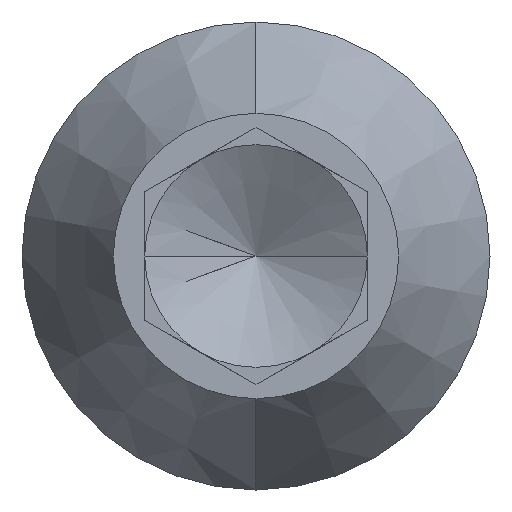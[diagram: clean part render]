
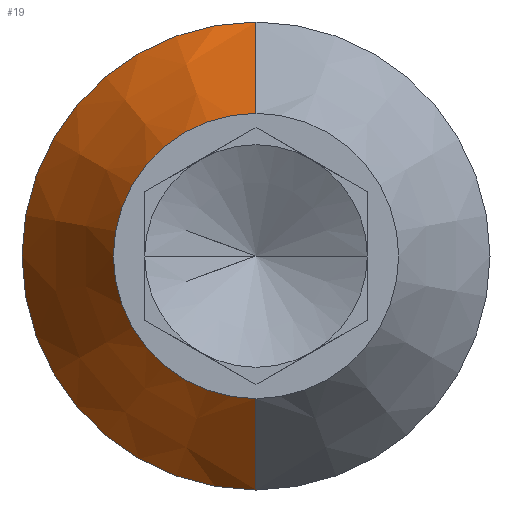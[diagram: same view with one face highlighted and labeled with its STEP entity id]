
A CAD part, left-side view. The second image highlights one B-rep face of the part: STEP entity #19.
In plain terms, the highlighted conical face has half-angle 30 degrees and reference radius 2.083 mm.
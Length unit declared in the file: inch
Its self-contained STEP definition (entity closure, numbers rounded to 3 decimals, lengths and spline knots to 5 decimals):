
#17 = EDGE_CURVE ( 'NONE', #29, #59, #318, .T. ) ;
#18 = EDGE_CURVE ( 'NONE', #23, #60, #314, .T. ) ;
#19 = ADVANCED_FACE ( 'NONE', ( #309 ), #308, .T. ) ;
#21 = ORIENTED_EDGE ( 'NONE', *, *, #17, .F. ) ;
#22 = EDGE_LOOP ( 'NONE', ( #24, #61, #21, #35 ) ) ;
#23 = VERTEX_POINT ( 'NONE', #306 ) ;
#24 = ORIENTED_EDGE ( 'NONE', *, *, #18, .F. ) ;
#29 = VERTEX_POINT ( 'NONE', #296 ) ;
#34 = EDGE_CURVE ( 'NONE', #60, #29, #289, .T. ) ;
#35 = ORIENTED_EDGE ( 'NONE', *, *, #34, .F. ) ;
#58 = EDGE_CURVE ( 'NONE', #23, #59, #380, .T. ) ;
#59 = VERTEX_POINT ( 'NONE', #376 ) ;
#60 = VERTEX_POINT ( 'NONE', #375 ) ;
#61 = ORIENTED_EDGE ( 'NONE', *, *, #58, .T. ) ;
#258 = CARTESIAN_POINT ( 'NONE',  ( 0.05543, 0., 0. ) ) ;
#289 = LINE ( 'NONE', #351, #350 ) ;
#296 = CARTESIAN_POINT ( 'NONE',  ( 0.05543, 0., -0.082 ) ) ;
#303 = DIRECTION ( 'NONE',  ( 0., 0., -1. ) ) ;
#304 = DIRECTION ( 'NONE',  ( 1., 0., 0. ) ) ;
#305 = AXIS2_PLACEMENT_3D ( 'NONE', #307, #304, #303 ) ;
#306 = CARTESIAN_POINT ( 'NONE',  ( 0., 0., 0.05 ) ) ;
#307 = CARTESIAN_POINT ( 'NONE',  ( 0.05543, 0., 0. ) ) ;
#308 = CONICAL_SURFACE ( 'NONE', #305, 0.082, 0.524 ) ;
#309 = FACE_OUTER_BOUND ( 'NONE', #22, .T. ) ;
#310 = DIRECTION ( 'NONE',  ( 0., 0., -1. ) ) ;
#311 = DIRECTION ( 'NONE',  ( -1., 0., 0. ) ) ;
#312 = CARTESIAN_POINT ( 'NONE',  ( 0., 0., 0. ) ) ;
#313 = AXIS2_PLACEMENT_3D ( 'NONE', #312, #311, #310 ) ;
#314 = CIRCLE ( 'NONE', #313, 0.05 ) ;
#315 = DIRECTION ( 'NONE',  ( 0., 0., -1. ) ) ;
#316 = DIRECTION ( 'NONE',  ( 1., 0., 0. ) ) ;
#317 = AXIS2_PLACEMENT_3D ( 'NONE', #258, #316, #315 ) ;
#318 = CIRCLE ( 'NONE', #317, 0.082 ) ;
#349 = DIRECTION ( 'NONE',  ( 0.866, 0., -0.5 ) ) ;
#350 = VECTOR ( 'NONE', #349, 39.37008 ) ;
#351 = CARTESIAN_POINT ( 'NONE',  ( 0.05543, 0., -0.082 ) ) ;
#375 = CARTESIAN_POINT ( 'NONE',  ( 0., 0., -0.05 ) ) ;
#376 = CARTESIAN_POINT ( 'NONE',  ( 0.05543, 0., 0.082 ) ) ;
#377 = DIRECTION ( 'NONE',  ( 0.866, 0., 0.5 ) ) ;
#378 = VECTOR ( 'NONE', #377, 39.37008 ) ;
#379 = CARTESIAN_POINT ( 'NONE',  ( 0.05543, 0., 0.082 ) ) ;
#380 = LINE ( 'NONE', #379, #378 ) ;
